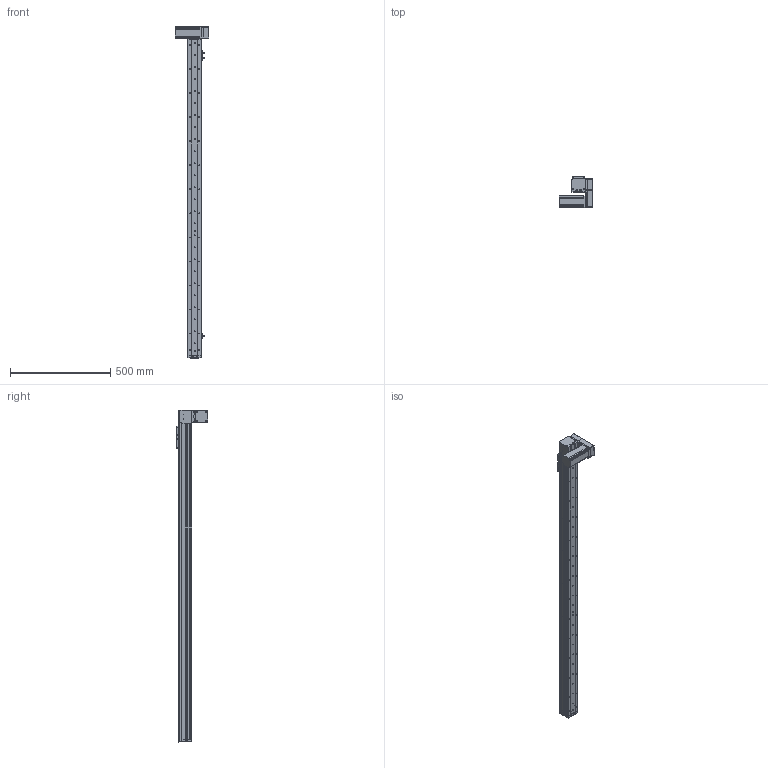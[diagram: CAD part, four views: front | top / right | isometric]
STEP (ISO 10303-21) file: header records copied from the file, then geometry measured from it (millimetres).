
FILE_DESCRIPTION (( 'STEP AP214' ), '1' );
FILE_NAME ('KSD68BS-S1400-MLD-CR.STEP', '2019-08-27T05:59:36', ( '微软用户' ), ( '微软中国' ), 'SwSTEP 2.0', 'SolidWorks 2014', '' );
FILE_SCHEMA (( 'AUTOMOTIVE_DESIGN' ));
Length unit declared in the file: millimetre
Products named in the file (14): 68宽单导轨全封闭丝杆传动安装板1防护罩; KSD68BS 1400行程侧板全封闭; 68宽单导轨全封闭同步带端板; 68单导轨全封闭同步带电机座左; 68单导轨全封闭同步带安装板; 悵誘欶奻狟殏; 68宽马达安装板连板上折同步带; 感应片68宽全封闭; U倰嫖萇EEㄜSX672; 台达ECMA－C20604AS伺服电机（400W); KSD68BS 1400行程底板全封闭; 68遵裔啣揤啣1; KSD68BS-S1400-MLD-CR; KSD68BS 1400行程盖板全封闭
Assembly tree (16 placements, depth 2):
  KSD68BS-S1400-MLD-CR
    KSD68BS 1400行程底板全封闭
    台达ECMA－C20604AS伺服电机（400W)
    U倰嫖萇EEㄜSX672  x3
    感应片68宽全封闭
    68宽马达安装板连板上折同步带
    悵誘欶奻狟殏
    68单导轨全封闭同步带安装板
    68单导轨全封闭同步带电机座左
    68宽单导轨全封闭同步带端板
    KSD68BS 1400行程侧板全封闭  x2
    68宽单导轨全封闭丝杆传动安装板1防护罩
    KSD68BS 1400行程盖板全封闭
    68遵裔啣揤啣1
Bounding box: 167.2 x 155.5 x 1658.1 mm (x, y, z)
Volume: 3073051.6 mm3; surface area: 1224775.1 mm2
Topology: 17 solids, 17 shells, 1570 faces, 4518 edges, 2882 vertices
Faces by surface type: cylinder 768, plane 622, cone 180
Entity records: 51463 total; most frequent: CARTESIAN_POINT 8960, DIRECTION 7662, ORIENTED_EDGE 7334, EDGE_CURVE 3667, AXIS2_PLACEMENT_3D 2788, VERTEX_POINT 2404, VECTOR 2086, LINE 2086
